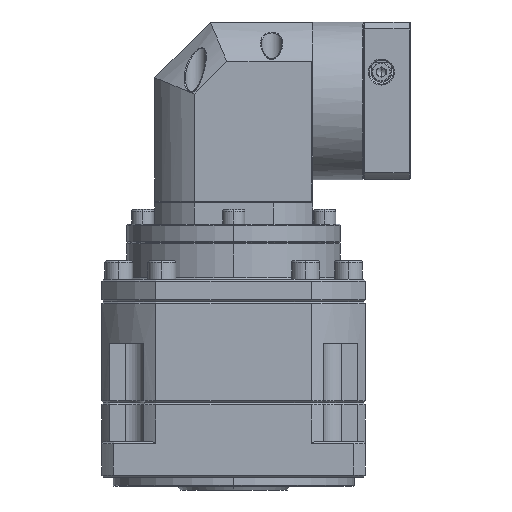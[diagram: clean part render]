
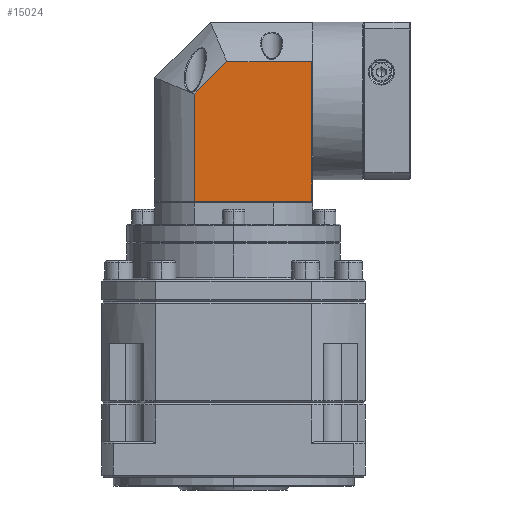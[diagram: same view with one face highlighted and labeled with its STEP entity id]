
A CAD part, front view. The second image highlights one B-rep face of the part: STEP entity #15024.
In plain terms, the highlighted planar face has unit normal (0, -1, 0).
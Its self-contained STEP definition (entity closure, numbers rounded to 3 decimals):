
#4480 = VERTEX_POINT ( 'NONE', #47994 ) ;
#4896 = VERTEX_POINT ( 'NONE', #182235 ) ;
#9839 = ORIENTED_EDGE ( 'NONE', *, *, #81942, .T. ) ;
#11613 = DIRECTION ( 'NONE',  ( 0., 1., 0. ) ) ;
#15024 = ADVANCED_FACE ( 'NONE', ( #160329 ), #168131, .F. ) ;
#15046 = DIRECTION ( 'NONE',  ( 0., 0., -1. ) ) ;
#15373 = ORIENTED_EDGE ( 'NONE', *, *, #108918, .F. ) ;
#16385 = CARTESIAN_POINT ( 'NONE',  ( 71.1, 101.278, -68.313 ) ) ;
#22701 = EDGE_LOOP ( 'NONE', ( #9839, #15373, #37334, #25020, #82349 ) ) ;
#25020 = ORIENTED_EDGE ( 'NONE', *, *, #151563, .F. ) ;
#32622 = VECTOR ( 'NONE', #15046, 1000. ) ;
#37334 = ORIENTED_EDGE ( 'NONE', *, *, #107081, .F. ) ;
#38504 = DIRECTION ( 'NONE',  ( 0., 0., 1. ) ) ;
#39233 = CARTESIAN_POINT ( 'NONE',  ( 70.6, 101.278, 28.187 ) ) ;
#42740 = CARTESIAN_POINT ( 'NONE',  ( 7.387, 101.278, -68.313 ) ) ;
#46461 = VERTEX_POINT ( 'NONE', #42740 ) ;
#47994 = CARTESIAN_POINT ( 'NONE',  ( 70.6, 101.278, -68.313 ) ) ;
#53698 = DIRECTION ( 'NONE',  ( 1., 0., 0. ) ) ;
#54804 = LINE ( 'NONE', #16385, #116380 ) ;
#57568 = VERTEX_POINT ( 'NONE', #84725 ) ;
#57910 = LINE ( 'NONE', #96832, #117374 ) ;
#58145 = LINE ( 'NONE', #122567, #161652 ) ;
#70353 = VERTEX_POINT ( 'NONE', #115293 ) ;
#73190 = LINE ( 'NONE', #164739, #148131 ) ;
#81942 = EDGE_CURVE ( 'NONE', #46461, #4480, #54804, .T. ) ;
#82349 = ORIENTED_EDGE ( 'NONE', *, *, #146542, .F. ) ;
#84725 = CARTESIAN_POINT ( 'NONE',  ( 70.6, 101.278, 6.9 ) ) ;
#96832 = CARTESIAN_POINT ( 'NONE',  ( 7.387, 101.278, -10.631 ) ) ;
#98727 = LINE ( 'NONE', #39233, #32622 ) ;
#107081 = EDGE_CURVE ( 'NONE', #4896, #57568, #58145, .T. ) ;
#108918 = EDGE_CURVE ( 'NONE', #57568, #4480, #98727, .T. ) ;
#115293 = CARTESIAN_POINT ( 'NONE',  ( 7.387, 101.278, -10.631 ) ) ;
#116380 = VECTOR ( 'NONE', #173504, 1000. ) ;
#117374 = VECTOR ( 'NONE', #182553, 1000. ) ;
#122567 = CARTESIAN_POINT ( 'NONE',  ( 71.1, 101.278, 6.9 ) ) ;
#124952 = CARTESIAN_POINT ( 'NONE',  ( 71.1, 101.278, 28.187 ) ) ;
#146542 = EDGE_CURVE ( 'NONE', #46461, #70353, #73190, .T. ) ;
#148131 = VECTOR ( 'NONE', #38504, 1000. ) ;
#150214 = AXIS2_PLACEMENT_3D ( 'NONE', #124952, #11613, #181728 ) ;
#151563 = EDGE_CURVE ( 'NONE', #70353, #4896, #57910, .T. ) ;
#160329 = FACE_OUTER_BOUND ( 'NONE', #22701, .T. ) ;
#161652 = VECTOR ( 'NONE', #53698, 1000. ) ;
#164739 = CARTESIAN_POINT ( 'NONE',  ( 7.387, 101.278, 28.187 ) ) ;
#168131 = PLANE ( 'NONE',  #150214 ) ;
#173504 = DIRECTION ( 'NONE',  ( 1., 0., 0. ) ) ;
#181728 = DIRECTION ( 'NONE',  ( -1., 0., 0. ) ) ;
#182235 = CARTESIAN_POINT ( 'NONE',  ( 24.917, 101.278, 6.9 ) ) ;
#182553 = DIRECTION ( 'NONE',  ( 0.707, 0., 0.707 ) ) ;
